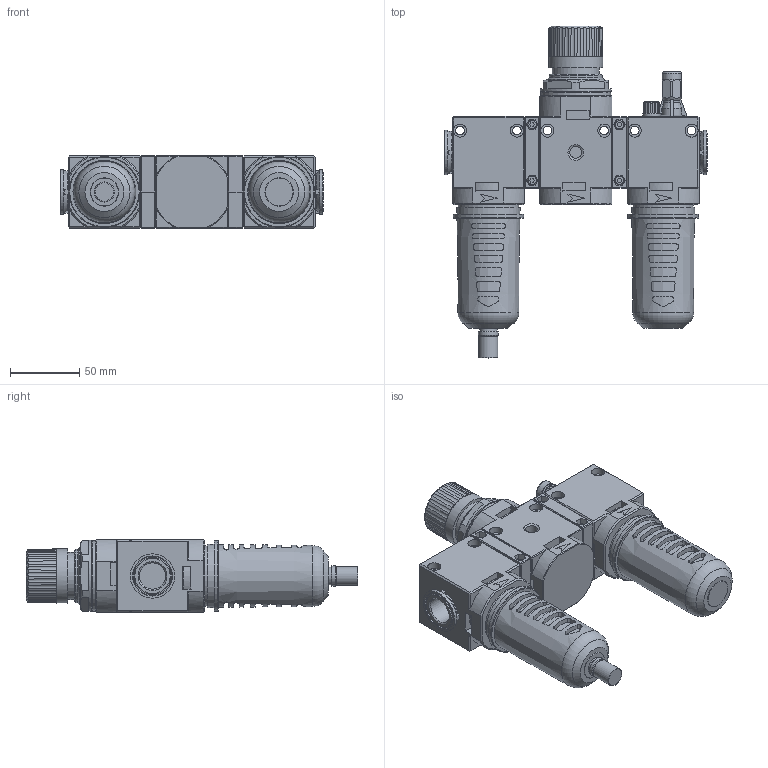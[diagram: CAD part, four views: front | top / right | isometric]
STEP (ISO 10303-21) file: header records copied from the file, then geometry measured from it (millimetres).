
FILE_DESCRIPTION (( 'STEP AP214' ), '1' );
FILE_NAME ('F+R+L 052.STEP', '2016-11-24T10:44:05', ( 'utente' ), ( 'Company' ), 'SwSTEP 2.0', 'SolidWorks 2016', '' );
FILE_SCHEMA (( 'AUTOMOTIVE_DESIGN' ));
Length unit declared in the file: millimetre
Products named in the file (5): F+R+L 052; C500600001; 0521300025; 0521200025; 0521100000
Assembly tree (5 placements, depth 2):
  F+R+L 052
    0521100000
    0521200025
    0521300025
    C500600001  x2
Bounding box: 189.3 x 239.36 x 52.1 mm (x, y, z)
Volume: 874073.3 mm3; surface area: 181879.6 mm2
Topology: 5 solids, 14 shells, 1527 faces, 3933 edges, 2536 vertices
Faces by surface type: plane 947, cylinder 375, cone 135, torus 38, bspline 32
Full cylindrical faces by diameter (mm): 4 x4, 4.2 x4, 5.8 x1, 6.2 x6, 7 x4, 7.3 x1, 8.5 x2, 9.4 x12, 10.4 x1, 11.2 x1, 12.1 x1, 12.5 x1, 13 x1, 13.7 x1, 14 x1, 14.5 x1, 18.9 x6, 20 x2, 20.5 x2, 23 x1, 24 x1, 25.4 x3, 28.9 x3, 29.5 x1, 32 x6, 34 x1, 38.4 x1, 39 x1, 41.7 x2, 43.5 x2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
Entity records: 49707 total; most frequent: CARTESIAN_POINT 12641, ORIENTED_EDGE 6474, DIRECTION 5878, EDGE_CURVE 3237, VERTEX_POINT 2162, AXIS2_PLACEMENT_3D 2121, EDGE_LOOP 1693, VECTOR 1636
